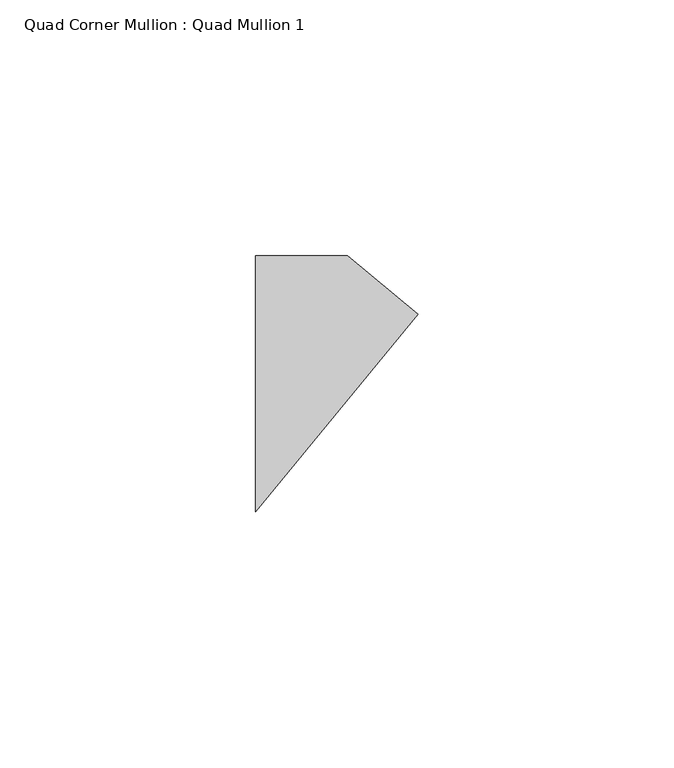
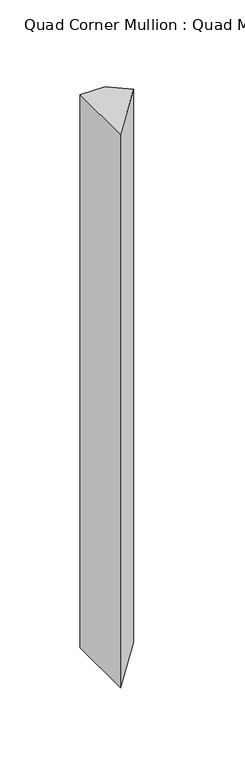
"""IFC4 building model written with IfcOpenShell, lengths in millimetres: member geometry, Quad Corner Mullion : Quad Mullion 1."""

from ifc_helpers import new_model, si_unit, frame, origin, place, context, project, spatial, polyline, outline, extrude, source, transform, mapped, element, save


def quad_corner_mullion_quad_mullion_1_eb250e9b(model_context):
    return source(origin(), model_context, "Body", "SweptSolid", [
        extrude(outline(polyline([(22.8068923, 13.6086231), (-8.963758, -25.0), (-8.963758, 25.0), (8.963758, 25.0), (22.8068923, 13.6086231)])), frame((0.0, 0.0, -420.0), z_axis=(0.0, 0.0, 1.0), x_axis=(1.0, 0.0, 0.0)), (0.0, 0.0, 1.0), 420.0),
    ])


if __name__ == "__main__":
    model = new_model("IFC4")
    model_context = context("Model", 3, world=origin())
    ifc_project = project(units=[si_unit("LENGTHUNIT", "METRE", prefix="MILLI")], contexts=[model_context])
    site = spatial("IfcSite", under=ifc_project)
    building = spatial("IfcBuilding", under=site)
    placement = place(None, origin())
    quad_corner_mullion_quad_mullion_1_shape = quad_corner_mullion_quad_mullion_1_eb250e9b(model_context)
    element("IfcMember", 1, ObjectType="Quad Corner Mullion : Quad Mullion 1", at=placement, inside=building, context=model_context, shape_type="MappedRepresentation", body=[
        mapped(quad_corner_mullion_quad_mullion_1_shape, transform((0.0, 0.0, 0.0), x_axis=(1.0, 0.0, 0.0), y_axis=(0.0, 1.0, 0.0), z_axis=(0.0, 0.0, 1.0))),
    ])
    save(model, "model.ifc")
